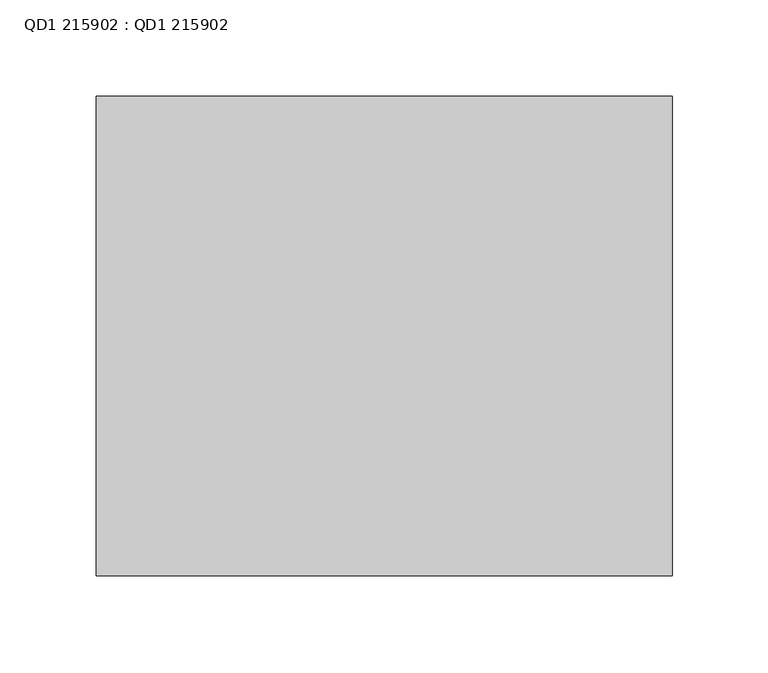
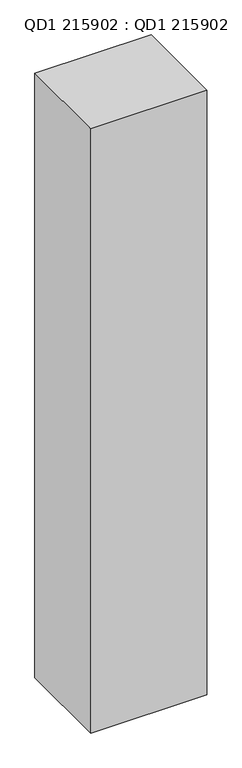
"""IFC4 building model written with IfcOpenShell, lengths in millimetres: proxy geometry, QD1 215902 : QD1 215902."""

from ifc_helpers import new_model, si_unit, frame, origin, place, context, project, spatial, polyline, outline, extrude, source, transform, mapped, element, save


def qd1_215902_qd1_215902_d174ea31(model_context):
    return source(origin(), model_context, "Body", "SweptSolid", [
        extrude(outline(polyline([(25808.3, 13092.5), (25808.3, 13342.5), (26108.3, 13342.5), (26108.3, 13092.5), (25808.3, 13092.5)])), frame((0.0, 0.0, 1380.0), z_axis=(0.0, 0.0, 1.0), x_axis=(1.0, 0.0, 0.0)), (0.0, 0.0, 1.0), 1650.0),
    ])


if __name__ == "__main__":
    model = new_model("IFC4")
    model_context = context("Model", 3, world=origin())
    ifc_project = project(units=[si_unit("LENGTHUNIT", "METRE", prefix="MILLI")], contexts=[model_context])
    site = spatial("IfcSite", under=ifc_project)
    building = spatial("IfcBuilding", under=site)
    placement = place(None, origin())
    qd1_215902_qd1_215902_shape = qd1_215902_qd1_215902_d174ea31(model_context)
    element("IfcBuildingElementProxy", 1, Name="QD1 215902 : QD1 215902", ObjectType="QD1 215902 : QD1 215902", at=placement, inside=building, context=model_context, shape_type="MappedRepresentation", body=[
        mapped(qd1_215902_qd1_215902_shape, transform((0.0, 0.0, 0.0), x_axis=(1.0, 0.0, 0.0), y_axis=(0.0, 1.0, 0.0), z_axis=(0.0, 0.0, 1.0))),
    ])
    save(model, "model.ifc")
